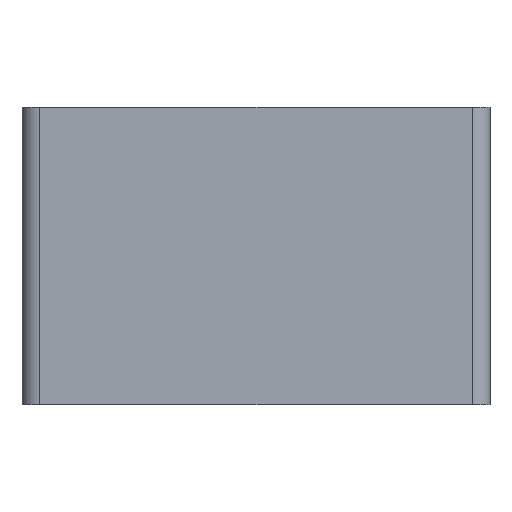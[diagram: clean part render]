
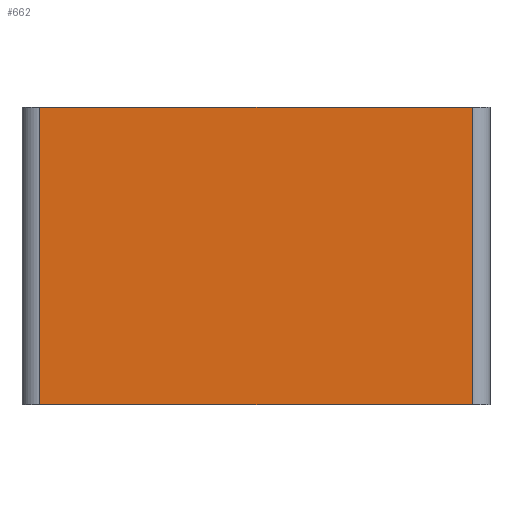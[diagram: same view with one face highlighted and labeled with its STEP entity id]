
A CAD part, left-side view. The second image highlights one B-rep face of the part: STEP entity #662.
In plain terms, the highlighted planar face has unit normal (-1, 0, 0).
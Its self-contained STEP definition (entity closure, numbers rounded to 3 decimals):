
#42 = EDGE_CURVE ( 'NONE', #587, #672, #419, .T. ) ;
#46 = FACE_OUTER_BOUND ( 'NONE', #566, .T. ) ;
#48 = ORIENTED_EDGE ( 'NONE', *, *, #455, .T. ) ;
#62 = ORIENTED_EDGE ( 'NONE', *, *, #42, .T. ) ;
#87 = VECTOR ( 'NONE', #545, 1000. ) ;
#141 = CARTESIAN_POINT ( 'NONE',  ( -14., 72.6, -100. ) ) ;
#146 = AXIS2_PLACEMENT_3D ( 'NONE', #429, #316, #644 ) ;
#160 = CARTESIAN_POINT ( 'NONE',  ( -14., 72.6, 0. ) ) ;
#161 = CARTESIAN_POINT ( 'NONE',  ( -14., 72.6, 0. ) ) ;
#173 = CARTESIAN_POINT ( 'NONE',  ( -14., -72.6, 0. ) ) ;
#192 = VECTOR ( 'NONE', #552, 1000. ) ;
#198 = ORIENTED_EDGE ( 'NONE', *, *, #562, .F. ) ;
#206 = LINE ( 'NONE', #256, #192 ) ;
#208 = CARTESIAN_POINT ( 'NONE',  ( -14., -72.6, -100. ) ) ;
#232 = DIRECTION ( 'NONE',  ( 0., 0., 1. ) ) ;
#240 = CARTESIAN_POINT ( 'NONE',  ( -14., 72.6, -100. ) ) ;
#256 = CARTESIAN_POINT ( 'NONE',  ( -14., -72.6, -100. ) ) ;
#279 = DIRECTION ( 'NONE',  ( 0., -1., 0. ) ) ;
#316 = DIRECTION ( 'NONE',  ( -1., 0., 0. ) ) ;
#374 = LINE ( 'NONE', #161, #87 ) ;
#419 = LINE ( 'NONE', #502, #550 ) ;
#428 = ORIENTED_EDGE ( 'NONE', *, *, #645, .F. ) ;
#429 = CARTESIAN_POINT ( 'NONE',  ( -14., 72.6, -100. ) ) ;
#455 = EDGE_CURVE ( 'NONE', #672, #568, #206, .T. ) ;
#459 = PLANE ( 'NONE',  #146 ) ;
#502 = CARTESIAN_POINT ( 'NONE',  ( -14., 72.6, -100. ) ) ;
#525 = VERTEX_POINT ( 'NONE', #160 ) ;
#545 = DIRECTION ( 'NONE',  ( 0., -1., 0. ) ) ;
#550 = VECTOR ( 'NONE', #279, 1000. ) ;
#552 = DIRECTION ( 'NONE',  ( 0., 0., 1. ) ) ;
#562 = EDGE_CURVE ( 'NONE', #525, #568, #374, .T. ) ;
#566 = EDGE_LOOP ( 'NONE', ( #198, #428, #62, #48 ) ) ;
#568 = VERTEX_POINT ( 'NONE', #173 ) ;
#587 = VERTEX_POINT ( 'NONE', #240 ) ;
#614 = VECTOR ( 'NONE', #232, 1000. ) ;
#643 = LINE ( 'NONE', #141, #614 ) ;
#644 = DIRECTION ( 'NONE',  ( 0., 0., 1. ) ) ;
#645 = EDGE_CURVE ( 'NONE', #587, #525, #643, .T. ) ;
#662 = ADVANCED_FACE ( 'NONE', ( #46 ), #459, .T. ) ;
#672 = VERTEX_POINT ( 'NONE', #208 ) ;
